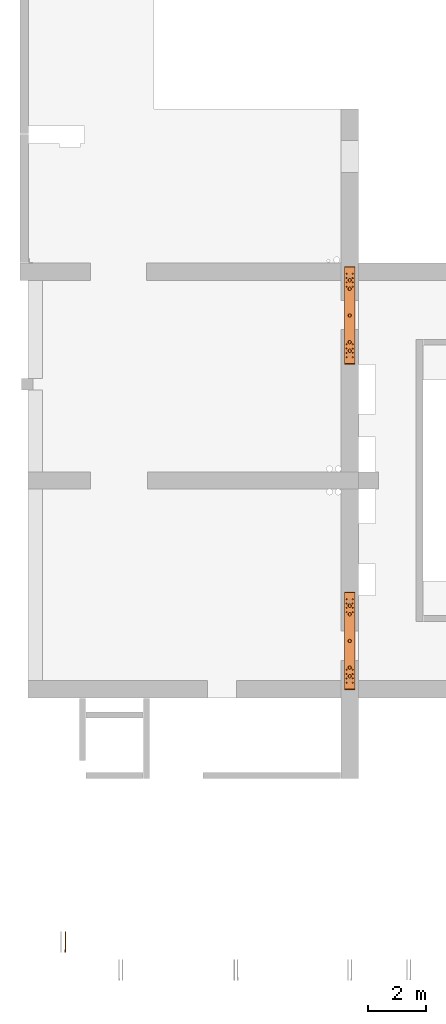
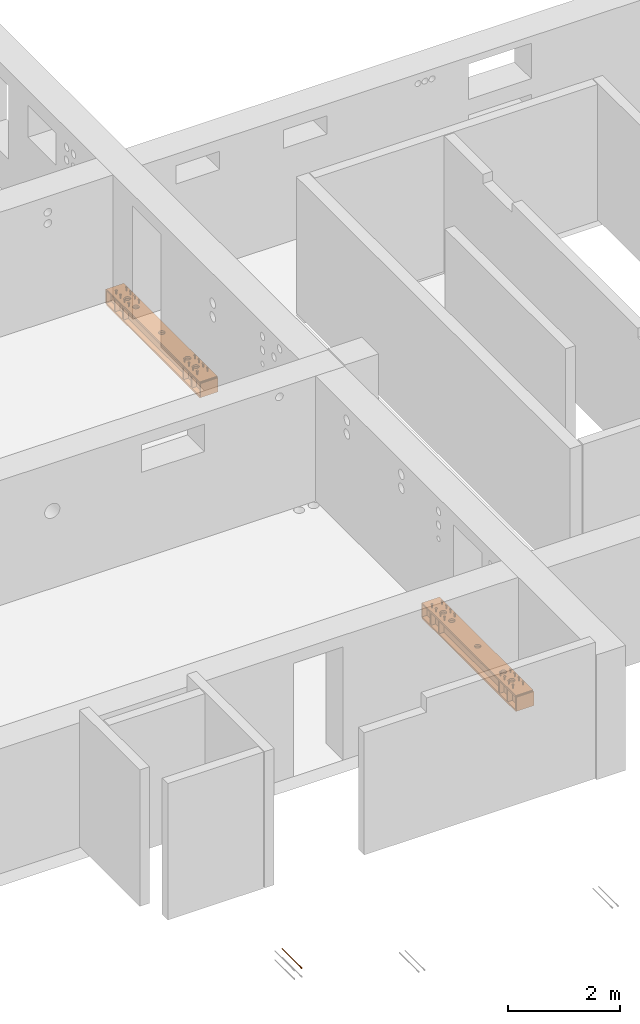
# One storey, part 6 of 8: 3 proxies.
"""IFC2X3 building model written with IfcOpenShell, lengths in millimetres."""

from ifc_helpers import new_model, entity, si_unit, converted_unit, derived_unit, direction, frame, frame_2d, origin, origin_2d_with_axis, place, context, subcontext, project, spatial, polyline, circle_curve, parameter, trimmed, segment, composite_curve, rectangle, circle, outline, extrude, faceted_brep, source, transform, mapped, material, type_object, type_shapes, element, save


model = new_model("IFC2X3")

# Units and contexts
model_context = context("Model", 3, precision=0.01, world=origin(), true_north=direction((6.12303176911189e-17, 1.0)))
body_context = subcontext(model_context, "Body", "Model", "MODEL_VIEW")
ifc_project = project(units=[si_unit("LENGTHUNIT", "METRE", prefix="MILLI"), si_unit("AREAUNIT", "SQUARE_METRE"), si_unit("VOLUMEUNIT", "CUBIC_METRE"), converted_unit("PLANEANGLEUNIT", "DEGREE", entity("IfcRatioMeasure", 0.0174532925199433), si_unit("PLANEANGLEUNIT", "RADIAN"), dimensions=[0, 0, 0, 0, 0, 0, 0]), si_unit("MASSUNIT", "GRAM", prefix="KILO"), derived_unit("MASSDENSITYUNIT", [(si_unit("MASSUNIT", "GRAM", prefix="KILO"), 1), (si_unit("LENGTHUNIT", "METRE"), -3)]), si_unit("TIMEUNIT", "SECOND"), si_unit("FREQUENCYUNIT", "HERTZ"), si_unit("THERMODYNAMICTEMPERATUREUNIT", "DEGREE_CELSIUS"), derived_unit("THERMALTRANSMITTANCEUNIT", [(si_unit("MASSUNIT", "GRAM", prefix="KILO"), 1), (si_unit("THERMODYNAMICTEMPERATUREUNIT", "KELVIN"), -1), (si_unit("TIMEUNIT", "SECOND"), -3)]), derived_unit("VOLUMETRICFLOWRATEUNIT", [(si_unit("LENGTHUNIT", "METRE"), 3), (si_unit("TIMEUNIT", "SECOND"), -1)]), si_unit("ELECTRICCURRENTUNIT", "AMPERE"), si_unit("ELECTRICVOLTAGEUNIT", "VOLT"), si_unit("POWERUNIT", "WATT"), si_unit("FORCEUNIT", "NEWTON", prefix="KILO"), si_unit("ILLUMINANCEUNIT", "LUX"), si_unit("LUMINOUSFLUXUNIT", "LUMEN"), si_unit("LUMINOUSINTENSITYUNIT", "CANDELA"), derived_unit("USERDEFINED", [(si_unit("MASSUNIT", "GRAM", prefix="KILO"), -1), (si_unit("LENGTHUNIT", "METRE"), -2), (si_unit("TIMEUNIT", "SECOND"), 3), (si_unit("LUMINOUSFLUXUNIT", "LUMEN"), 1)]), derived_unit("LINEARVELOCITYUNIT", [(si_unit("LENGTHUNIT", "METRE"), 1), (si_unit("TIMEUNIT", "SECOND"), -1)]), si_unit("PRESSUREUNIT", "PASCAL"), derived_unit("USERDEFINED", [(si_unit("LENGTHUNIT", "METRE"), -2), (si_unit("MASSUNIT", "GRAM", prefix="KILO"), 1), (si_unit("TIMEUNIT", "SECOND"), -2)])], contexts=[model_context])

# Site, building, storey
site_placement = place(None, origin())
site = spatial("IfcSite", under=ifc_project, at=site_placement, Name="Default", CompositionType="ELEMENT")
building_placement = place(site_placement, origin())
building = spatial("IfcBuilding", under=site, at=building_placement, Name="niet gebruiken", CompositionType="ELEMENT")
storey_placement = place(building_placement, frame((0.0, 0.0, 3000.0)))
storey = spatial("IfcBuildingStorey", under=building, at=storey_placement, Name="00a eerste tussenverdieping", CompositionType="ELEMENT", Elevation=3000.00000000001)

# Proxies
ifc_material = material(Name="NLRS_h2_staal")
building_element_proxy_type_1 = type_object("IfcBuildingElementProxyType", Name="3350x360x350", PredefinedType="NOTDEFINED", material=ifc_material)
shared_shape_1 = source(origin(), body_context, "Body", "SweptSolid", [
    extrude(circle(Radius=20.0, at=frame_2d((0.0, -3.38395977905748e-14), x_axis=(1.0, 0.0))), frame((-1150.0, 105.0, 420.0)), (0.0, 0.0, 1.0), 9.99999999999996),
    extrude(circle(Radius=9.5, at=frame_2d((0.0, -1.69197988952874e-14), x_axis=(1.0, 0.0))), frame((-1150.0, 105.0, 350.0)), (0.0, 0.0, 1.0), 69.9999999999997),
    extrude(circle(Radius=20.0, at=frame_2d((0.0, -3.38395977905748e-14), x_axis=(1.0, 0.0))), frame((-1150.0, -105.0, 420.0)), (0.0, 0.0, 1.0), 9.99999999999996),
    extrude(circle(Radius=9.5, at=frame_2d((0.0, -1.69197988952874e-14), x_axis=(1.0, 0.0))), frame((-1150.0, -105.0, 350.0)), (0.0, 0.0, 1.0), 69.9999999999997),
    extrude(circle(Radius=20.0, at=frame_2d((0.0, -3.38395977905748e-14), x_axis=(1.0, 0.0))), frame((-1300.0, 105.0, 420.0)), (0.0, 0.0, 1.0), 9.99999999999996),
    extrude(circle(Radius=9.5, at=frame_2d((0.0, -1.69197988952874e-14), x_axis=(1.0, 0.0))), frame((-1300.0, 105.0, 350.0)), (0.0, 0.0, 1.0), 69.9999999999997),
    extrude(circle(Radius=20.0, at=frame_2d((0.0, -3.38395977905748e-14), x_axis=(1.0, 0.0))), frame((-1300.0, -105.0, 420.0)), (0.0, 0.0, 1.0), 9.99999999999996),
    extrude(circle(Radius=9.5, at=frame_2d((0.0, -1.69197988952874e-14), x_axis=(1.0, 0.0))), frame((-1300.0, -105.0, 350.0)), (0.0, 0.0, 1.0), 69.9999999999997),
    extrude(circle(Radius=20.0, at=frame_2d((0.0, -3.38395977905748e-14), x_axis=(1.0, 0.0))), frame((-1000.0, 105.0, 420.0)), (0.0, 0.0, 1.0), 9.99999999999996),
    extrude(circle(Radius=9.5, at=frame_2d((0.0, -1.69197988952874e-14), x_axis=(1.0, 0.0))), frame((-1000.0, 105.0, 350.0)), (0.0, 0.0, 1.0), 69.9999999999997),
    extrude(circle(Radius=20.0, at=frame_2d((0.0, -3.38395977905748e-14), x_axis=(1.0, 0.0))), frame((-1000.0, -105.0, 420.0)), (0.0, 0.0, 1.0), 9.99999999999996),
    extrude(circle(Radius=9.5, at=frame_2d((0.0, -1.69197988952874e-14), x_axis=(1.0, 0.0))), frame((-1000.0, -105.0, 350.0)), (0.0, 0.0, 1.0), 69.9999999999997),
    extrude(circle(Radius=20.0, at=frame_2d((0.0, -3.38395977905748e-14), x_axis=(1.0, 0.0))), frame((1150.0, 105.0, 420.0)), (0.0, 0.0, 1.0), 9.99999999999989),
    extrude(circle(Radius=9.5, at=frame_2d((0.0, -1.69197988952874e-14), x_axis=(1.0, 0.0))), frame((1150.0, 105.0, 350.0)), (0.0, 0.0, 1.0), 69.9999999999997),
    extrude(circle(Radius=20.0, at=frame_2d((0.0, -3.38395977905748e-14), x_axis=(1.0, 0.0))), frame((1150.0, -105.0, 420.0)), (0.0, 0.0, 1.0), 9.99999999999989),
    extrude(circle(Radius=9.5, at=frame_2d((0.0, -1.69197988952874e-14), x_axis=(1.0, 0.0))), frame((1150.0, -105.0, 350.0)), (0.0, 0.0, 1.0), 69.9999999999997),
    extrude(circle(Radius=20.0, at=frame_2d((0.0, -3.38395977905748e-14), x_axis=(1.0, 0.0))), frame((1300.0, 105.0, 420.0)), (0.0, 0.0, 1.0), 9.99999999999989),
    extrude(circle(Radius=9.5, at=frame_2d((0.0, -1.69197988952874e-14), x_axis=(1.0, 0.0))), frame((1300.0, 105.0, 350.0)), (0.0, 0.0, 1.0), 69.9999999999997),
    extrude(circle(Radius=20.0, at=frame_2d((0.0, -3.38395977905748e-14), x_axis=(1.0, 0.0))), frame((1300.0, -105.0, 420.0)), (0.0, 0.0, 1.0), 9.99999999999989),
    extrude(circle(Radius=9.5, at=frame_2d((0.0, -1.69197988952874e-14), x_axis=(1.0, 0.0))), frame((1300.0, -105.0, 350.0)), (0.0, 0.0, 1.0), 69.9999999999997),
    extrude(circle(Radius=20.0, at=frame_2d((0.0, -3.38395977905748e-14), x_axis=(1.0, 0.0))), frame((1000.0, 105.0, 420.0)), (0.0, 0.0, 1.0), 9.99999999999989),
    extrude(circle(Radius=9.5, at=frame_2d((0.0, -1.69197988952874e-14), x_axis=(1.0, 0.0))), frame((1000.0, 105.0, 350.0)), (0.0, 0.0, 1.0), 69.9999999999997),
    extrude(circle(Radius=20.0, at=frame_2d((0.0, -3.38395977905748e-14), x_axis=(1.0, 0.0))), frame((1000.0, -105.0, 420.0)), (0.0, 0.0, 1.0), 9.99999999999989),
    extrude(circle(Radius=9.5, at=frame_2d((0.0, -1.69197988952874e-14), x_axis=(1.0, 0.0))), frame((1000.0, -105.0, 350.0)), (0.0, 0.0, 1.0), 69.9999999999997),
    extrude(circle(Radius=20.0, at=frame_2d((0.0, -3.38395977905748e-14), x_axis=(1.0, 0.0))), frame((1450.0, 105.0, 420.0)), (0.0, 0.0, 1.0), 9.99999999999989),
    extrude(circle(Radius=9.5, at=frame_2d((0.0, -1.69197988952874e-14), x_axis=(1.0, 0.0))), frame((1450.0, 105.0, 350.0)), (0.0, 0.0, 1.0), 69.9999999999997),
    extrude(circle(Radius=20.0, at=frame_2d((0.0, -3.38395977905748e-14), x_axis=(1.0, 0.0))), frame((1450.0, -105.0, 420.0)), (0.0, 0.0, 1.0), 9.99999999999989),
    extrude(circle(Radius=9.5, at=frame_2d((0.0, -1.69197988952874e-14), x_axis=(1.0, 0.0))), frame((1450.0, -105.0, 350.0)), (0.0, 0.0, 1.0), 69.9999999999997),
    extrude(circle(Radius=20.0, at=frame_2d((0.0, -3.38395977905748e-14), x_axis=(1.0, 0.0))), frame((-1450.0, 105.0, 420.0)), (0.0, 0.0, 1.0), 9.99999999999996),
    extrude(circle(Radius=9.5, at=frame_2d((0.0, -1.69197988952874e-14), x_axis=(1.0, 0.0))), frame((-1450.0, 105.0, 350.0)), (0.0, 0.0, 1.0), 69.9999999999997),
    extrude(circle(Radius=20.0, at=frame_2d((0.0, -3.38395977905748e-14), x_axis=(1.0, 0.0))), frame((-1450.0, -105.0, 420.0)), (0.0, 0.0, 1.0), 9.99999999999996),
    extrude(circle(Radius=9.5, at=frame_2d((0.0, -1.69197988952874e-14), x_axis=(1.0, 0.0))), frame((-1450.0, -105.0, 350.0)), (0.0, 0.0, 1.0), 69.9999999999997),
    extrude(rectangle(XDim=25.0000000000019, YDim=359.999999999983, at=origin_2d_with_axis()), frame((1687.49999999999, 0.0, 20.0), z_axis=(0.0, 0.0, 1.0), x_axis=(-1.0, 0.0, 0.0)), (0.0, 0.0, 1.0), 309.999999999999),
    extrude(rectangle(XDim=24.9999999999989, YDim=359.999999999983, at=frame_2d((-1.35891298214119e-13, 0.0), x_axis=(1.0, 0.0))), frame((-1687.50000000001, 0.0, 20.0), z_axis=(0.0, 0.0, 1.0), x_axis=(-1.0, 0.0, 0.0)), (0.0, 0.0, 1.0), 309.999999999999),
    extrude(outline(polyline([(-1675.0, -180.0), (1675.0, -180.0), (1675.0, 180.0), (-1675.0, 180.0), (-1675.0, -180.0)]), holes=[composite_curve([segment(trimmed(circle_curve(frame_2d((1225.0, 0.0), x_axis=(1.0, 0.0)), 60.0), [parameter(180.0)], [parameter(360.0)], True, "PARAMETER"), False, "CONTINUOUS"), segment(trimmed(circle_curve(frame_2d((1225.0, 0.0), x_axis=(1.0, 0.0)), 60.0), [parameter(3.56222124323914e-13)], [parameter(180.0)], True, "PARAMETER"), False, "CONTINUOUS")], self_intersect=False), composite_curve([segment(trimmed(circle_curve(frame_2d((925.0, 0.0), x_axis=(1.0, 0.0)), 60.0), [parameter(180.0)], [parameter(360.0)], True, "PARAMETER"), False, "CONTINUOUS"), segment(trimmed(circle_curve(frame_2d((925.0, 0.0), x_axis=(1.0, 0.0)), 60.0), [parameter(3.56222124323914e-13)], [parameter(180.0)], True, "PARAMETER"), False, "CONTINUOUS")], self_intersect=False), composite_curve([segment(trimmed(circle_curve(frame_2d((-925.0, 0.0), x_axis=(1.0, 0.0)), 60.0), [parameter(180.0)], [parameter(360.0)], True, "PARAMETER"), False, "CONTINUOUS"), segment(trimmed(circle_curve(frame_2d((-925.0, 0.0), x_axis=(1.0, 0.0)), 60.0), [parameter(3.56222124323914e-13)], [parameter(180.0)], True, "PARAMETER"), False, "CONTINUOUS")], self_intersect=False), composite_curve([segment(trimmed(circle_curve(frame_2d((-1225.0, 0.0), x_axis=(1.0, 0.0)), 60.0), [parameter(180.0)], [parameter(360.0)], True, "PARAMETER"), False, "CONTINUOUS"), segment(trimmed(circle_curve(frame_2d((-1225.0, 0.0), x_axis=(1.0, 0.0)), 60.0), [parameter(3.56222124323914e-13)], [parameter(180.0)], True, "PARAMETER"), False, "CONTINUOUS")], self_intersect=False), composite_curve([segment(trimmed(circle_curve(origin_2d_with_axis(), 60.0), [parameter(180.0)], [parameter(360.0)], True, "PARAMETER"), False, "CONTINUOUS"), segment(trimmed(circle_curve(origin_2d_with_axis(), 60.0), [parameter(3.56222124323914e-13)], [parameter(180.0)], True, "PARAMETER"), False, "CONTINUOUS")], self_intersect=False)]), frame((0.0, 0.0, 310.0), z_axis=(0.0, 0.0, 1.0), x_axis=(-1.0, 0.0, 0.0)), (0.0, 0.0, 1.0), 40.0),
    extrude(rectangle(XDim=3350.0, YDim=359.999999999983, at=origin_2d_with_axis()), frame((0.0, 0.0, 0.0), z_axis=(0.0, 0.0, 1.0), x_axis=(-1.0, 0.0, 0.0)), (0.0, 0.0, 1.0), 40.0000000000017),
    extrude(rectangle(XDim=24.9999999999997, YDim=100.0, at=origin_2d_with_axis()), frame((1375.0, 130.0, 40.0), z_axis=(0.0, 0.0, 1.0), x_axis=(-1.0, 0.0, 0.0)), (0.0, 0.0, 1.0), 269.999999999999),
    extrude(rectangle(XDim=25.0, YDim=100.0, at=frame_2d((-1.35891298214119e-13, 0.0), x_axis=(1.0, 0.0))), frame((1075.0, 130.0, 40.0), z_axis=(0.0, 0.0, 1.0), x_axis=(-1.0, 0.0, 0.0)), (0.0, 0.0, 1.0), 269.999999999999),
    extrude(rectangle(XDim=25.0, YDim=100.0, at=frame_2d((-1.35891298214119e-13, 0.0), x_axis=(1.0, 0.0))), frame((1075.0, -130.0, 40.0), z_axis=(0.0, 0.0, 1.0), x_axis=(-1.0, 0.0, 0.0)), (0.0, 0.0, 1.0), 269.999999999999),
    extrude(rectangle(XDim=24.9999999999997, YDim=100.0, at=origin_2d_with_axis()), frame((1375.0, -130.0, 40.0), z_axis=(0.0, 0.0, 1.0), x_axis=(-1.0, 0.0, 0.0)), (0.0, 0.0, 1.0), 269.999999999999),
    extrude(rectangle(XDim=25.0, YDim=100.0, at=frame_2d((-1.35891298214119e-13, 0.0), x_axis=(1.0, 0.0))), frame((-1075.0, 130.0, 40.0), z_axis=(0.0, 0.0, 1.0), x_axis=(-1.0, 0.0, 0.0)), (0.0, 0.0, 1.0), 269.999999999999),
    extrude(rectangle(XDim=24.9999999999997, YDim=100.0, at=origin_2d_with_axis()), frame((-1375.0, 130.0, 40.0), z_axis=(0.0, 0.0, 1.0), x_axis=(-1.0, 0.0, 0.0)), (0.0, 0.0, 1.0), 269.999999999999),
    extrude(rectangle(XDim=24.9999999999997, YDim=100.0, at=origin_2d_with_axis()), frame((-1375.0, -130.0, 40.0), z_axis=(0.0, 0.0, 1.0), x_axis=(-1.0, 0.0, 0.0)), (0.0, 0.0, 1.0), 269.999999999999),
    extrude(rectangle(XDim=25.0, YDim=100.0, at=frame_2d((-1.35891298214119e-13, 0.0), x_axis=(1.0, 0.0))), frame((-1075.0, -130.0, 40.0), z_axis=(0.0, 0.0, 1.0), x_axis=(-1.0, 0.0, 0.0)), (0.0, 0.0, 1.0), 269.999999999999),
    extrude(rectangle(XDim=3350.0, YDim=29.9999999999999, at=origin_2d_with_axis()), frame((0.0, -65.0, 40.0), z_axis=(0.0, 0.0, 1.0), x_axis=(-1.0, 0.0, 0.0)), (0.0, 0.0, 1.0), 269.999999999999),
    extrude(rectangle(XDim=3350.0, YDim=29.9999999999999, at=origin_2d_with_axis()), frame((0.0, 65.0, 40.0), z_axis=(0.0, 0.0, 1.0), x_axis=(-1.0, 0.0, 0.0)), (0.0, 0.0, 1.0), 269.999999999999),
])
type_shapes(building_element_proxy_type_1, [shared_shape_1])
for number, where, z_axis, x_axis in (
    (1, (135700.0, 11925.0, -520.0), (0.0, 0.0, 1.0), (0.0, 1.0, 0.0)),
    (2, (135700.0, 23228.0, -520.0), (0.0, 0.0, 1.0), (0.0, 1.0, 0.0)),
):
    element("IfcBuildingElementProxy", number, at=place(storey_placement, frame(where, z_axis=z_axis, x_axis=x_axis)), inside=storey, type_object=building_element_proxy_type_1, material=ifc_material, Name="NLRS_28.11_SF_UN_stalen latei mezzanine_gen_BSc:3350x360x350", ObjectType="3350x360x350", context=body_context, shape_type="MappedRepresentation", body=[
        mapped(shared_shape_1, transform((0.0, 0.0, 0.0), scale=1.0)),
    ])
building_element_proxy_type_2 = type_object("IfcBuildingElementProxyType", Name="Ø20/M24x705", PredefinedType="NOTDEFINED")
shared_shape_2 = source(origin(), body_context, "Body", "SolidModel", [
    extrude(circle(Radius=10.0, at=frame_2d((0.0, -1.61554457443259e-14), x_axis=(1.0, 0.0))), frame((34.9769027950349, 0.0, -705.0)), (0.0, 0.0, 1.0), 615.0),
    extrude(circle(Radius=10.0, at=frame_2d((0.0, -1.61554457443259e-14), x_axis=(1.0, 0.0))), frame((34.9769027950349, 0.0, -705.0)), (0.0, 0.0, 1.0), 615.0),
    faceted_brep([(29.3200485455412, 13.6568542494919, 0.0), (32.1484756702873, 14.8284271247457, 0.0), (34.9769027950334, 16.0, 0.0), (34.9769027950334, 16.0, -38.0), (32.1484756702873, 14.8284271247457, -38.0), (29.3200485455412, 13.6568542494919, -38.0), (26.4916214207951, 12.4852813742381, -38.0), (23.663194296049, 11.3137084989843, -38.0), (23.663194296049, 11.3137084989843, 0.0), (26.4916214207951, 12.4852813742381, 0.0), (49.805329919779, 2.82842712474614, 0.0), (50.9769027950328, 0.0, 0.0), (50.9769027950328, 0.0, -38.0), (50.0199937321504, 2.31018283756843, -38.0), (49.7680552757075, 2.91841607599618, -38.0), (48.6337570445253, 5.65685424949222, -38.0), (48.5592077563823, 5.83683215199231, -38.0), (47.4621841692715, 8.48528137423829, -38.0), (46.2906112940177, 11.3137084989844, -38.0), (46.2906112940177, 11.3137084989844, 0.0), (47.4621841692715, 8.48528137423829, 0.0), (48.6337570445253, 5.65685424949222, 0.0), (21.3200485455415, 5.65685424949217, 0.0), (22.4916214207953, 8.48528137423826, 0.0), (22.4916214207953, 8.48528137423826, -38.0), (22.2769576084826, 7.96703708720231, -38.0), (21.3200485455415, 5.65685424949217, -38.0), (20.8907209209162, 4.62036567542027, -38.0), (20.1484756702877, 2.82842712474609, -38.0), (18.976902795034, 0.0, -38.0), (18.976902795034, 0.0, 0.0), (20.1484756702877, 2.82842712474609, 0.0), (40.6337570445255, 13.6568542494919, 0.0), (43.4621841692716, 12.4852813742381, 0.0), (43.4621841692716, 12.4852813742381, -38.0), (40.6337570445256, 13.6568542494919, -38.0), (37.8053299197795, 14.8284271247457, -38.0), (37.8053299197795, 14.8284271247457, 0.0), (49.063084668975, -4.62036567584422, 0.0), (47.6768479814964, -7.96703708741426, 0.0), (46.2906112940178, -11.3137084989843, 0.0), (46.2906112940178, -11.3137084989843, -38.0), (47.4621841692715, -8.48528137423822, -38.0), (48.6337570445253, -5.65685424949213, -38.0), (49.8053299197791, -2.82842712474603, -38.0), (29.3200485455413, -13.6568542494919, 0.0), (26.4916214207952, -12.4852813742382, 0.0), (23.6631942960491, -11.3137084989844, 0.0), (23.6631942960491, -11.3137084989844, -38.0), (26.4916214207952, -12.4852813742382, -38.0), (29.3200485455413, -13.6568542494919, -38.0), (32.1484756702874, -14.8284271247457, -38.0), (34.9769027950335, -16.0, -38.0), (34.9769027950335, -16.0, 0.0), (32.1484756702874, -14.8284271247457, 0.0), (37.8053299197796, -14.8284271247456, -38.0), (40.6337570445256, -13.6568542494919, -38.0), (43.4621841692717, -12.4852813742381, -38.0), (43.4621841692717, -12.4852813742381, 0.0), (40.6337570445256, -13.6568542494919, 0.0), (37.8053299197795, -14.8284271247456, 0.0), (22.4916214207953, -8.48528137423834, 0.0), (21.3200485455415, -5.65685424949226, 0.0), (20.1484756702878, -2.82842712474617, 0.0), (19.9338118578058, -2.31018283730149, -38.0), (20.1857498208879, -2.91841488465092, -38.0), (21.3200485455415, -5.65685424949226, -38.0), (22.4916214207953, -8.48528137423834, -38.0), (25.7845146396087, 9.19238815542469, -52.0), (24.8628969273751, 6.96740617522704, -52.0), (23.9412792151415, 4.7424241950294, -52.0), (22.9590910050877, 2.3712120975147, -52.0), (21.976902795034, 0.0, -52.0), (44.1692909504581, 9.19238815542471, -52.0), (47.9769027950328, 0.0, -52.0), (46.994714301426, 2.37121278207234, -52.0), (46.0730968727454, 4.59619407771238, -52.0), (45.1211939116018, 6.89429111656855, -52.0), (34.9769027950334, 13.0, -52.0), (32.6788057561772, 12.0480970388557, -52.0), (30.380708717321, 11.096194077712, -52.0), (28.0826116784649, 10.1442911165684, -52.0), (37.2749998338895, 12.0480970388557, -52.0), (41.8711939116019, 10.1442911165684, -52.0), (39.5730968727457, 11.0961940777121, -52.0), (44.1692909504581, -9.19238815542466, -52.0), (45.0909086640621, -6.96740617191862, -52.0), (45.3722781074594, -6.28812024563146, -52.0), (46.0125263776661, -4.74242418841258, -52.0), (46.5752652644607, -3.38385233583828, -52.0), (46.9947145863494, -2.37121209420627, -52.0), (28.0826116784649, -10.1442911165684, -52.0), (30.3807087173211, -11.0961940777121, -52.0), (32.6788057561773, -12.0480970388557, -52.0), (34.9769027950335, -13.0, -52.0), (25.7845146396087, -9.19238815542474, -52.0), (37.2749998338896, -12.0480970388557, -52.0), (39.5730968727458, -11.096194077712, -52.0), (41.871193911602, -10.1442911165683, -52.0), (22.9288057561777, -2.29809703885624, -52.0), (23.8807087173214, -4.59619407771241, -52.0), (24.8326116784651, -6.89429111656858, -52.0), (32.6788057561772, 12.0480970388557, -90.0), (30.380708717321, 11.096194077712, -90.0), (28.0826116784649, 10.1442911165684, -90.0), (25.7845146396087, 9.19238815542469, -90.0), (34.9769027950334, 13.0, -90.0), (47.9769027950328, 0.0, -90.0), (47.2760840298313, 1.691926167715, -90.0), (46.0730968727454, 4.59619407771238, -90.0), (45.1211939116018, 6.89429111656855, -90.0), (44.1692909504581, 9.19238815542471, -90.0), (23.3785403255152, 3.38385233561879, -90.0), (21.976902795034, 0.0, -90.0), (24.5815274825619, 6.28812024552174, -90.0), (41.8711939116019, 10.1442911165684, -90.0), (39.5730968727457, 11.0961940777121, -90.0), (37.2749998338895, 12.0480970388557, -90.0), (46.0730968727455, -4.5961940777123, -90.0), (47.0249998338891, -2.29809703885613, -90.0), (44.1692909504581, -9.19238815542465, -90.0), (45.1211939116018, -6.89429111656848, -90.0), (25.7845146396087, -9.19238815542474, -90.0), (28.0826116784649, -10.1442911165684, -90.0), (30.3807087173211, -11.0961940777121, -90.0), (32.6788057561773, -12.0480970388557, -90.0), (34.9769027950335, -13.0, -90.0), (37.2749998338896, -12.0480970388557, -90.0), (39.5730968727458, -11.096194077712, -90.0), (41.871193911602, -10.1442911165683, -90.0), (22.6777215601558, -1.6919261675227, -90.0), (23.8807087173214, -4.59619407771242, -90.0), (24.8326116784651, -6.89429111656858, -90.0), (34.9769027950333, 0.0, -90.0), (34.9769027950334, 0.0, -38.0), (47.9769027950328, 0.0, -38.0), (47.2760840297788, 1.69192616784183, -38.0), (46.0730968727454, 4.59619407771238, -38.0), (45.1211939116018, 6.89429111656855, -38.0), (44.1692909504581, 9.19238815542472, -38.0), (41.8711939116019, 10.1442911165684, -38.0), (39.5730968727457, 11.0961940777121, -38.0), (37.2749998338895, 12.0480970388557, -38.0), (34.9769027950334, 13.0, -38.0), (32.6788057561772, 12.0480970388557, -38.0), (30.380708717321, 11.096194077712, -38.0), (28.0826116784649, 10.1442911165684, -38.0), (25.7845146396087, 9.19238815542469, -38.0), (24.5815274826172, 6.28812024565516, -38.0), (23.3785403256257, 3.38385233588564, -38.0), (21.976902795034, 0.0, -38.0), (22.6777215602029, -1.69192616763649, -38.0), (47.0249998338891, -2.29809703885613, -38.0), (46.0730968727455, -4.59619407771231, -38.0), (45.1211939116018, -6.89429111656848, -38.0), (44.1692909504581, -9.19238815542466, -38.0), (41.871193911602, -10.1442911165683, -38.0), (39.5730968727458, -11.096194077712, -38.0), (37.2749998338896, -12.0480970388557, -38.0), (34.9769027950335, -13.0, -38.0), (23.8807087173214, -4.59619407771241, -38.0), (24.8326116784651, -6.89429111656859, -38.0), (25.7845146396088, -9.19238815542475, -38.0), (28.0826116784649, -10.1442911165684, -38.0), (30.3807087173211, -11.0961940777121, -38.0), (32.6788057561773, -12.0480970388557, -38.0), (32.6788057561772, 12.0480970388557, 0.0), (30.380708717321, 11.096194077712, 0.0), (28.0826116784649, 10.1442911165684, 0.0), (25.7845146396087, 9.19238815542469, 0.0), (34.9769027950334, 13.0, 0.0), (47.9769027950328, 0.0, 0.0), (47.0249998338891, 2.29809703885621, 0.0), (46.0730968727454, 4.59619407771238, 0.0), (45.1211939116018, 6.89429111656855, 0.0), (44.1692909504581, 9.19238815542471, 0.0), (24.832611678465, 6.89429111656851, 0.0), (23.8807087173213, 4.59619407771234, 0.0), (22.9288057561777, 2.29809703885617, 0.0), (21.976902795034, 0.0, 0.0), (37.2749998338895, 12.0480970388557, 0.0), (41.8711939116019, 10.1442911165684, 0.0), (39.5730968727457, 11.0961940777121, 0.0), (44.1692909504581, -9.19238815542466, 0.0), (45.3722781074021, -6.28812024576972, 0.0), (46.5752652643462, -3.38385233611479, 0.0), (32.6788057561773, -12.0480970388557, 0.0), (34.9769027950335, -13.0, 0.0), (25.7845146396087, -9.19238815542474, 0.0), (28.0826116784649, -10.1442911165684, 0.0), (30.3807087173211, -11.0961940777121, 0.0), (37.2749998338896, -12.0480970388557, 0.0), (39.5730968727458, -11.096194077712, 0.0), (41.871193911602, -10.1442911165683, 0.0), (22.9288057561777, -2.29809703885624, 0.0), (23.8807087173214, -4.59619407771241, 0.0), (24.8326116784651, -6.89429111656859, 0.0)], [[[0, 1, 2, 3, 4, 5, 6, 7, 8, 9]], [[10, 11, 12, 13, 14, 15, 16, 17, 18, 19, 20, 21]], [[22, 23, 8, 7, 24, 25, 26, 27, 28, 29, 30, 31]], [[32, 33, 19, 18, 34, 35, 36, 3, 2, 37]], [[38, 39, 40, 41, 42, 43, 44, 12, 11]], [[45, 46, 47, 48, 49, 50, 51, 52, 53, 54]], [[53, 52, 55, 56, 57, 41, 40, 58, 59, 60]], [[48, 47, 61, 62, 63, 30, 29, 64, 65, 66, 67]], [[7, 68, 69, 70, 71, 72, 29, 28, 27, 26, 25, 24]], [[73, 18, 17, 16, 15, 14, 13, 12, 74, 75, 76, 77]], [[4, 3, 78, 79, 80, 81, 68, 7, 6, 5]], [[82, 78, 3, 36, 35, 34, 18, 73, 83, 84]], [[41, 85, 86, 87, 88, 89, 90, 74, 12, 44, 43, 42]], [[91, 92, 93, 94, 52, 51, 50, 49, 48, 95]], [[55, 52, 94, 96, 97, 98, 85, 41, 57, 56]], [[99, 100, 101, 95, 48, 67, 66, 65, 64, 29, 72]], [[102, 103, 104, 105, 68, 81, 80, 79, 78, 106]], [[75, 74, 107, 108, 109, 110, 111, 73, 77, 76]], [[112, 113, 72, 71, 70, 69, 68, 105, 114]], [[84, 83, 73, 111, 115, 116, 117, 106, 78, 82]], [[118, 119, 107, 74, 90, 89, 88, 87, 86, 85, 120, 121]], [[92, 91, 95, 122, 123, 124, 125, 126, 94, 93]], [[94, 126, 127, 128, 129, 120, 85, 98, 97, 96]], [[122, 95, 101, 100, 99, 72, 113, 130, 131, 132]], [[133, 111, 110]], [[133, 110, 109]], [[133, 109, 108]], [[133, 108, 107]], [[133, 107, 119]], [[133, 115, 111]], [[133, 116, 115]], [[133, 117, 116]], [[133, 106, 117]], [[133, 102, 106]], [[133, 103, 102]], [[133, 104, 103]], [[133, 105, 104]], [[133, 114, 105]], [[133, 112, 114]], [[133, 113, 112]], [[133, 119, 118]], [[133, 118, 121]], [[133, 121, 120]], [[133, 120, 129]], [[133, 129, 128]], [[133, 128, 127]], [[133, 127, 126]], [[133, 126, 125]], [[133, 130, 113]], [[133, 131, 130]], [[133, 132, 131]], [[133, 122, 132]], [[133, 125, 124]], [[133, 124, 123]], [[133, 123, 122]], [[134, 135, 136]], [[134, 136, 137]], [[134, 137, 138]], [[134, 138, 139]], [[134, 139, 140]], [[134, 140, 141]], [[134, 141, 142]], [[134, 142, 143]], [[134, 143, 144]], [[134, 144, 145]], [[134, 145, 146]], [[134, 146, 147]], [[134, 147, 148]], [[134, 148, 149]], [[134, 149, 150]], [[134, 150, 151]], [[134, 152, 135]], [[134, 153, 152]], [[134, 154, 153]], [[134, 155, 154]], [[134, 156, 155]], [[134, 157, 156]], [[134, 158, 157]], [[134, 159, 158]], [[134, 151, 160]], [[134, 160, 161]], [[134, 161, 162]], [[134, 162, 163]], [[134, 163, 164]], [[134, 164, 165]], [[134, 165, 159]], [[166, 167, 168, 169, 147, 146, 145, 144, 143, 170]], [[136, 135, 171, 172, 173, 174, 175, 139, 138, 137]], [[148, 147, 169, 176, 177, 178, 179, 150, 149]], [[180, 170, 143, 142, 141, 140, 139, 175, 181, 182]], [[153, 154, 155, 183, 184, 185, 171, 135, 152]], [[186, 187, 159, 165, 164, 163, 162, 188, 189, 190]], [[158, 159, 187, 191, 192, 193, 183, 155, 156, 157]], [[161, 160, 151, 150, 179, 194, 195, 196, 188, 162]], [[171, 11, 10]], [[171, 10, 21]], [[171, 21, 20]], [[171, 20, 19]], [[19, 172, 171]], [[171, 38, 11]], [[171, 39, 38]], [[171, 40, 39]], [[40, 171, 185]], [[40, 185, 184]], [[40, 184, 183]], [[183, 58, 40]], [[183, 59, 58]], [[183, 60, 59]], [[183, 53, 60]], [[53, 183, 193]], [[53, 193, 192]], [[53, 192, 191]], [[53, 191, 187]], [[53, 187, 186]], [[53, 186, 190]], [[53, 190, 189]], [[53, 189, 188]], [[188, 54, 53]], [[188, 45, 54]], [[188, 46, 45]], [[188, 47, 46]], [[47, 188, 196]], [[47, 196, 195]], [[47, 195, 194]], [[47, 194, 179]], [[179, 61, 47]], [[179, 62, 61]], [[179, 63, 62]], [[179, 30, 63]], [[179, 31, 30]], [[179, 22, 31]], [[179, 23, 22]], [[179, 8, 23]], [[8, 179, 178]], [[8, 178, 177]], [[8, 177, 176]], [[8, 176, 169]], [[169, 9, 8]], [[169, 0, 9]], [[169, 1, 0]], [[169, 2, 1]], [[2, 169, 168]], [[2, 168, 167]], [[2, 167, 166]], [[2, 166, 170]], [[2, 170, 180]], [[2, 180, 182]], [[2, 182, 181]], [[2, 181, 175]], [[175, 19, 33]], [[19, 175, 174]], [[175, 33, 32]], [[175, 32, 37]], [[175, 37, 2]], [[19, 174, 173]], [[19, 173, 172]]]),
])
type_shapes(building_element_proxy_type_2, [shared_shape_2])
proxy_placement = place(storey_placement, frame((125790.023097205, 1114.0, 2810.0), z_axis=(0.0, -1.0, 0.0), x_axis=(1.0, 0.0, 0.0)))
element("IfcBuildingElementProxy", 3, at=proxy_placement, inside=storey, type_object=building_element_proxy_type_2, Name="GM_Stekanker_DEMU_4010 GV:Ø20/M24x705", ObjectType="Ø20/M24x705", context=body_context, shape_type="MappedRepresentation", body=[
    mapped(shared_shape_2, transform((0.0, 0.0, 0.0), scale=1.0)),
])

save(model, "model.ifc")
